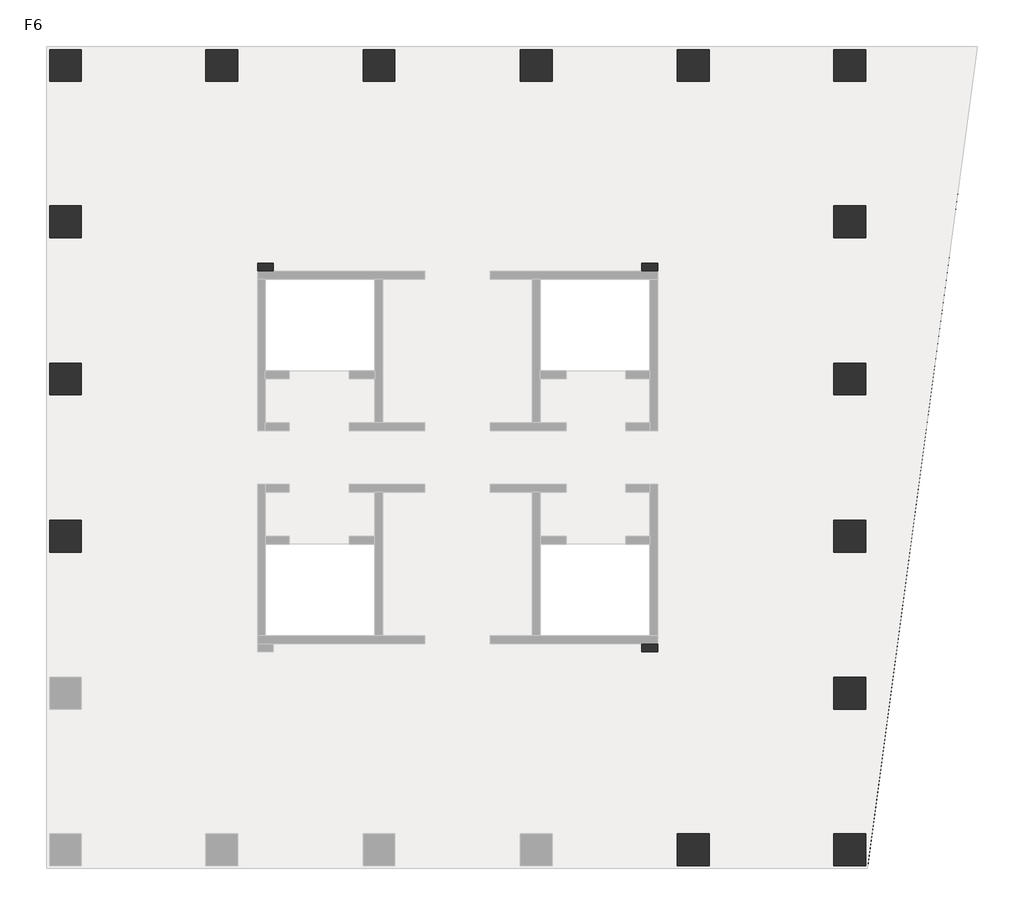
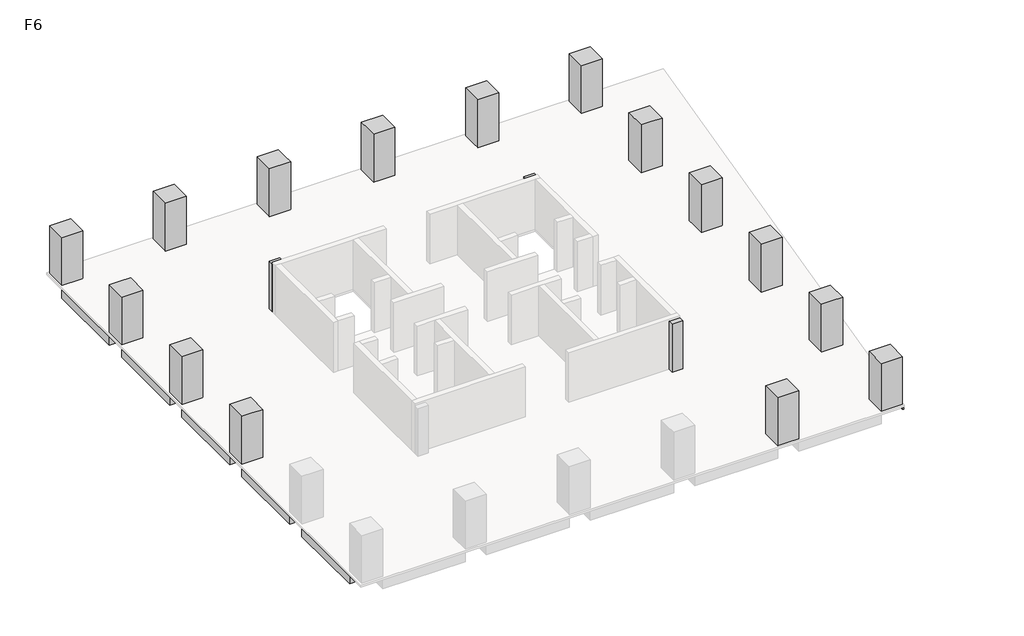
# One storey, part 2 of 2: 21 beams, 18 columns.
"""IFC4 building model written with IfcOpenShell, lengths in millimetres."""

import ifcopenshell
import ifcopenshell.guid

model = None  # the IFC model being written
_history = None  # IfcOwnerHistory: only IFC2X3 demands one
_inside = {}  # id of a spatial element -> (the spatial element, [elements in it])
_under = {}  # id of a project, library or spatial element -> (it, [spatial elements below it])
_declared = {}  # id of a project -> (the project, [libraries it declares])
_typed = {}  # id of a type object -> (the type object, [elements of that type])
_made_of = {}  # id of a material, layer set ... -> (it, [elements and type objects made of it])


def new_model(schema):
    """Start an empty IFC model of exactly this schema.

    Asked for "IFC4X3", IfcOpenShell would pick the latest addendum, in which some entities
    have other attributes; the version numbers below select the first issue.
    IFC2X3 requires an IfcOwnerHistory on every rooted entity: one is made here for all.
    """
    global model, _history
    if schema == "IFC4X3":
        model = ifcopenshell.file(schema_version=(4, 3, 0, 0))
    else:
        model = ifcopenshell.file(schema=schema)
    _inside.clear()
    _under.clear()
    _declared.clear()
    _typed.clear()
    _made_of.clear()
    _history = None
    if model.schema == "IFC2X3":
        org = make("IfcOrganization", Name="unknown")
        user = make(
            "IfcPersonAndOrganization",
            ThePerson=make("IfcPerson", FamilyName="unknown"),
            TheOrganization=org,
        )
        app = make(
            "IfcApplication",
            ApplicationDeveloper=org,
            Version="unknown",
            ApplicationFullName="unknown",
            ApplicationIdentifier="unknown",
        )
        _history = make(
            "IfcOwnerHistory",
            OwningUser=user,
            OwningApplication=app,
            ChangeAction="ADDED",
            CreationDate=0,
        )
    return model


def make(cls, **values):
    """One entity of the class cls with the attributes given. An attribute that is None is left unset."""
    return model.create_entity(
        cls, **{name: value for name, value in values.items() if value is not None}
    )


def rooted(cls, **values):
    """An entity with a GlobalId (a new one), such as an element, a storey or a relation."""
    return make(cls, GlobalId=ifcopenshell.guid.new(), OwnerHistory=_history, **values)


def si_unit(unit_type, name, prefix=None):
    """IfcSIUnit, for example si_unit("LENGTHUNIT", "METRE", prefix="MILLI")."""
    return make("IfcSIUnit", UnitType=unit_type, Prefix=prefix, Name=name)


def assignment(units):
    """IfcUnitAssignment: the units of a project."""
    return None if units is None else make("IfcUnitAssignment", Units=units)


def point(xyz):
    """IfcCartesianPoint."""
    return None if xyz is None else make("IfcCartesianPoint", Coordinates=xyz)


def direction(xyz):
    """IfcDirection."""
    return None if xyz is None else make("IfcDirection", DirectionRatios=xyz)


def frame(location, z_axis=None, x_axis=None):
    """IfcAxis2Placement3D, a coordinate frame: its origin and axes. An axis left out is left unset."""
    return make(
        "IfcAxis2Placement3D",
        Location=point(location),
        Axis=direction(z_axis),
        RefDirection=direction(x_axis),
    )


def origin():
    """The frame at (0, 0, 0) with its axes left unset."""
    return frame((0.0, 0.0, 0.0))


def place(relative_to, where):
    """IfcLocalPlacement: puts the frame where relative to a parent placement (None: the world)."""
    return make(
        "IfcLocalPlacement", PlacementRelTo=relative_to, RelativePlacement=where
    )


def context(
    kind, dimensions, precision=None, world=None, true_north=None, identifier=None
):
    """IfcGeometricRepresentationContext, for example the 3D "Model" context."""
    return make(
        "IfcGeometricRepresentationContext",
        ContextIdentifier=identifier,
        ContextType=kind,
        CoordinateSpaceDimension=dimensions,
        Precision=precision,
        WorldCoordinateSystem=world,
        TrueNorth=true_north,
    )


def project(units=None, contexts=None):
    """IfcProject with its units and contexts."""
    return rooted(
        "IfcProject",
        Name="project",
        RepresentationContexts=contexts,
        UnitsInContext=assignment(units),
    )


def spatial(cls, under=None, at=None, **own):
    """A site, building, storey or space (cls), placed at a placement, below another one or the project."""
    s = rooted(cls, ObjectPlacement=at, **own)
    if under is not None:
        _under.setdefault(under.id(), (under, []))[1].append(s)
    return s


def polyline(points):
    """IfcPolyline through the points."""
    return make("IfcPolyline", Points=[point(p) for p in points])


def outline(outer, holes=None, kind="AREA"):
    """IfcArbitraryClosedProfileDef: a profile drawn as a closed curve; with holes, ...WithVoids."""
    if holes is None:
        return make("IfcArbitraryClosedProfileDef", ProfileType=kind, OuterCurve=outer)
    return make(
        "IfcArbitraryProfileDefWithVoids",
        ProfileType=kind,
        OuterCurve=outer,
        InnerCurves=holes,
    )


def extrude(swept, where, along, depth):
    """IfcExtrudedAreaSolid: the profile swept, set in the frame where, extruded along a direction by depth."""
    return make(
        "IfcExtrudedAreaSolid",
        SweptArea=swept,
        Position=where,
        ExtrudedDirection=direction(along),
        Depth=depth,
    )


def faces_of(points, faces, orient=None, outer=None):
    """IfcFace entities. A face is a list of loops; a loop is a list of indices into points, from 0.

    orient and outer hold one flag for each loop. By default every Orientation is true, the
    first loop of a face is its IfcFaceOuterBound and the others are IfcFaceBound.
    """
    made = []
    for i, loops in enumerate(faces):
        bounds = []
        for j, loop in enumerate(loops):
            is_outer = j == 0 if outer is None else outer[i][j]
            bounds.append(
                make(
                    "IfcFaceOuterBound" if is_outer else "IfcFaceBound",
                    Bound=make("IfcPolyLoop", Polygon=[points[k] for k in loop]),
                    Orientation=True if orient is None else orient[i][j],
                )
            )
        made.append(make("IfcFace", Bounds=bounds))
    return made


def faceted_brep(points, faces, orient=None, outer=None, voids=None):
    """IfcFacetedBrep: a solid bounded by flat faces; with voids (closed shells), ...WithVoids."""
    shared = [point(p) for p in points]
    hull = make("IfcClosedShell", CfsFaces=faces_of(shared, faces, orient, outer))
    if voids is None:
        return make("IfcFacetedBrep", Outer=hull)
    return make(
        "IfcFacetedBrepWithVoids",
        Outer=hull,
        Voids=[
            make(cls, CfsFaces=faces_of(shared, fs, o, b)) for cls, fs, o, b in voids
        ],
    )


def shape(context_of_items, identifier, shape_type, items):
    """IfcShapeRepresentation: the items that make up one representation, for example the "Body"."""
    return make(
        "IfcShapeRepresentation",
        ContextOfItems=context_of_items,
        RepresentationIdentifier=identifier,
        RepresentationType=shape_type,
        Items=items,
    )


def made_of(thing, what):
    """Note that an element or type object is made of a material, layer set ...; save() writes the relation."""
    if what is not None:
        _made_of.setdefault(what.id(), (what, []))[1].append(thing)
    return thing


def element(
    cls,
    number,
    at=None,
    inside=None,
    cuts=None,
    type_object=None,
    material=None,
    context=None,
    identifier="Body",
    shape_type=None,
    held_by="IfcProductDefinitionShape",
    body=None,
    shapes=None,
    **own,
):
    """One element of the class cls, such as IfcWall. Its Tag is "e" and its number.

    at: its placement. inside: the storey or other place that contains it. cuts: it is an
    opening in that element (IfcRelVoidsElement). A single representation is given by context,
    identifier, shape_type and body (its items); several are given by shapes. held_by: the class
    of the entity that holds the representations. save() writes the other relations.
    """
    e = rooted(cls, Tag="e%d" % number, ObjectPlacement=at, **own)
    if body is not None:
        shapes = [shape(context, identifier, shape_type, body)]
    if shapes is not None:
        e.Representation = make(held_by, Representations=shapes)
    if inside is not None:
        _inside.setdefault(inside.id(), (inside, []))[1].append(e)
    if cuts is not None:
        rooted(
            "IfcRelVoidsElement", RelatingBuildingElement=cuts, RelatedOpeningElement=e
        )
    if type_object is not None:
        _typed.setdefault(type_object.id(), (type_object, []))[1].append(e)
    return made_of(e, material)


def aggregate(whole, parts):
    """IfcRelAggregates: a whole, such as a stair, and the parts it consists of."""
    return rooted("IfcRelAggregates", RelatingObject=whole, RelatedObjects=parts)


def save(model, path):
    """Write the relations noted so far, then the file.

    IfcRelAggregates (storeys below a building ...), IfcRelContainedInSpatialStructure (elements
    in a storey), IfcRelDefinesByType, IfcRelAssociatesMaterial and IfcRelDeclares: one each for
    every whole, place, type object, material and project.
    """
    for whole, parts in _under.values():
        aggregate(whole, parts)
    for where, things in _inside.values():
        rooted(
            "IfcRelContainedInSpatialStructure",
            RelatedElements=things,
            RelatingStructure=where,
        )
    for kind, things in _typed.values():
        rooted("IfcRelDefinesByType", RelatedObjects=things, RelatingType=kind)
    for what, things in _made_of.values():
        rooted("IfcRelAssociatesMaterial", RelatedObjects=things, RelatingMaterial=what)
    for by, libraries in _declared.values():
        rooted("IfcRelDeclares", RelatingContext=by, RelatedDefinitions=libraries)
    model.write(path)


model = new_model("IFC4")

# Units and contexts
model_context = context("Model", 3, world=origin())
ifc_project = project(units=[si_unit("LENGTHUNIT", "METRE", prefix="MILLI")], contexts=[model_context])

# Site, building, storey
site = spatial("IfcSite", under=ifc_project)
building = spatial("IfcBuilding", under=site)
storey = spatial("IfcBuildingStorey", under=building, Name="F6", Elevation=24000.0)

# Beams
placement = place(None, origin())
element("IfcBeam", 1, ObjectType="混凝土 - 矩形梁 : KL(5)-800x1000", at=placement, inside=storey, context=model_context, shape_type="SweptSolid", body=[
    extrude(outline(polyline([(25327.3257831, 27051.0498658), (25327.3257831, 26251.0498658), (19077.3257831, 26251.0498658), (19077.3257831, 27051.0498658), (25327.3257831, 27051.0498658)])), frame((0.0, 0.0, 23000.0), z_axis=(0.0, 0.0, 1.0), x_axis=(1.0, 0.0, 0.0)), (0.0, 0.0, 1.0), 840.0),
    extrude(outline(polyline([(-12472.6742169, 26251.0498658), (-12472.6742169, 27051.0498658), (-6222.6742169, 27051.0498658), (-6222.6742169, 26251.0498658), (-12472.6742169, 26251.0498658)])), frame((0.0, 0.0, 23000.0), z_axis=(0.0, 0.0, 1.0), x_axis=(1.0, 0.0, 0.0)), (0.0, 0.0, 1.0), 840.0),
    extrude(outline(polyline([(-4622.6742169, 26251.0498658), (-4622.6742169, 27051.0498658), (1677.3257831, 27051.0498658), (1677.3257831, 26251.0498658), (-4622.6742169, 26251.0498658)])), frame((0.0, 0.0, 23000.0), z_axis=(0.0, 0.0, 1.0), x_axis=(1.0, 0.0, 0.0)), (0.0, 0.0, 1.0), 840.0),
    extrude(outline(polyline([(3277.3257831, 26251.0498658), (3277.3257831, 27051.0498658), (9577.3257831, 27051.0498658), (9577.3257831, 26251.0498658), (3277.3257831, 26251.0498658)])), frame((0.0, 0.0, 23000.0), z_axis=(0.0, 0.0, 1.0), x_axis=(1.0, 0.0, 0.0)), (0.0, 0.0, 1.0), 840.0),
    extrude(outline(polyline([(11177.3257831, 26251.0498658), (11177.3257831, 27051.0498658), (17477.3257831, 27051.0498658), (17477.3257831, 26251.0498658), (11177.3257831, 26251.0498658)])), frame((0.0, 0.0, 23000.0), z_axis=(0.0, 0.0, 1.0), x_axis=(1.0, 0.0, 0.0)), (0.0, 0.0, 1.0), 840.0),
])
element("IfcBeam", 2, ObjectType="混凝土 - 矩形梁 : KL(5)-800x1000", at=placement, inside=storey, context=model_context, shape_type="Brep", body=[
    faceted_brep([(26927.3257831, 26251.0498658, 23000.0), (32422.0087099, 26251.0498658, 23000.0), (32422.0087099, 26251.0498658, 23840.0), (32018.4257091, 26251.0498658, 23840.0), (26927.3257831, 26251.0498658, 23840.0), (32422.0087099, 27051.0498658, 23000.0), (26927.3257831, 27051.0498658, 23000.0), (26927.3257831, 27051.0498658, 23840.0), (32422.0087099, 27051.0498658, 23840.0)], [[[0, 1, 2, 3, 4]], [[5, 1, 0, 6]], [[5, 6, 7, 8]], [[1, 5, 8, 2]], [[6, 0, 4, 7]], [[4, 3, 2, 8, 7]]]),
])
element("IfcBeam", 3, ObjectType="混凝土 - 矩形梁 : KL(5)-800x1000", at=placement, inside=storey, context=model_context, shape_type="Brep", body=[
    faceted_brep([(26127.3257831, -6098.9501342, 23000.0), (26127.3257831, -12348.9501342, 23000.0), (26127.3257831, -12348.9501342, 23840.0), (26127.3257831, -6098.9501342, 23840.0), (26927.3257831, -12348.9501342, 23000.0), (26927.3257831, -6098.9501342, 23000.0), (26927.3257831, -6098.9501342, 23840.0), (26927.3257831, -11700.7859463, 23840.0), (26927.3257831, -12348.9501342, 23840.0)], [[[0, 1, 2, 3]], [[4, 1, 0, 5]], [[4, 5, 6, 7, 8]], [[1, 4, 8, 2]], [[5, 0, 3, 6]], [[3, 2, 8, 7, 6]]]),
    faceted_brep([(26927.3257831, 25451.0498658, 23000.0), (26127.3257831, 25451.0498658, 23000.0), (26127.3257831, 25451.0498658, 23840.0), (26927.3257831, 25451.0498658, 23840.0), (26127.3257831, 19201.0498658, 23000.0), (26927.3257831, 19201.0498658, 23000.0), (26927.3257831, 19201.0498658, 23840.0), (26127.3257831, 19201.0498658, 23840.0)], [[[0, 1, 2, 3]], [[4, 5, 6, 7]], [[1, 4, 7, 2]], [[1, 0, 5, 4]], [[5, 0, 3, 6]], [[3, 2, 7, 6]]]),
    faceted_brep([(26927.3257831, 17601.0498658, 23000.0), (26127.3257831, 17601.0498658, 23000.0), (26127.3257831, 17601.0498658, 23840.0), (26927.3257831, 17601.0498658, 23840.0), (26127.3257831, 11301.0498658, 23000.0), (26927.3257831, 11301.0498658, 23000.0), (26927.3257831, 11301.0498658, 23840.0), (26127.3257831, 11301.0498658, 23840.0)], [[[0, 1, 2, 3]], [[4, 5, 6, 7]], [[1, 4, 7, 2]], [[1, 0, 5, 4]], [[5, 0, 3, 6]], [[3, 2, 7, 6]]]),
    faceted_brep([(26927.3257831, 9701.0498658, 23000.0), (26127.3257831, 9701.0498658, 23000.0), (26127.3257831, 9701.0498658, 23840.0), (26927.3257831, 9701.0498658, 23840.0), (26127.3257831, 3401.0498658, 23000.0), (26927.3257831, 3401.0498658, 23000.0), (26927.3257831, 3401.0498658, 23840.0), (26127.3257831, 3401.0498658, 23840.0)], [[[0, 1, 2, 3]], [[4, 5, 6, 7]], [[1, 4, 7, 2]], [[1, 0, 5, 4]], [[5, 0, 3, 6]], [[3, 2, 7, 6]]]),
    faceted_brep([(26927.3257831, 1801.0498658, 23000.0), (26127.3257831, 1801.0498658, 23000.0), (26127.3257831, 1801.0498658, 23840.0), (26927.3257831, 1801.0498658, 23840.0), (26127.3257831, -4498.9501342, 23000.0), (26927.3257831, -4498.9501342, 23000.0), (26927.3257831, -4498.9501342, 23840.0), (26127.3257831, -4498.9501342, 23840.0)], [[[0, 1, 2, 3]], [[4, 5, 6, 7]], [[1, 4, 7, 2]], [[1, 0, 5, 4]], [[5, 0, 3, 6]], [[3, 2, 7, 6]]]),
])
element("IfcBeam", 4, ObjectType="混凝土 - 矩形梁 : KL(5)-800x1000", at=placement, inside=storey, context=model_context, shape_type="SweptSolid", body=[
    extrude(outline(polyline([(-14072.6742169, 25451.0498658), (-13272.6742169, 25451.0498658), (-13272.6742169, 19201.0498658), (-14072.6742169, 19201.0498658), (-14072.6742169, 25451.0498658)])), frame((0.0, 0.0, 23000.0), z_axis=(0.0, 0.0, 1.0), x_axis=(1.0, 0.0, 0.0)), (0.0, 0.0, 1.0), 840.0),
    extrude(outline(polyline([(-13272.6742169, -12348.9501342), (-14072.6742169, -12348.9501342), (-14072.6742169, -6098.9501342), (-13272.6742169, -6098.9501342), (-13272.6742169, -12348.9501342)])), frame((0.0, 0.0, 23000.0), z_axis=(0.0, 0.0, 1.0), x_axis=(1.0, 0.0, 0.0)), (0.0, 0.0, 1.0), 840.0),
    extrude(outline(polyline([(-14072.6742169, 17601.0498658), (-13272.6742169, 17601.0498658), (-13272.6742169, 11301.0498658), (-14072.6742169, 11301.0498658), (-14072.6742169, 17601.0498658)])), frame((0.0, 0.0, 23000.0), z_axis=(0.0, 0.0, 1.0), x_axis=(1.0, 0.0, 0.0)), (0.0, 0.0, 1.0), 840.0),
    extrude(outline(polyline([(-14072.6742169, 9701.0498658), (-13272.6742169, 9701.0498658), (-13272.6742169, 3401.0498658), (-14072.6742169, 3401.0498658), (-14072.6742169, 9701.0498658)])), frame((0.0, 0.0, 23000.0), z_axis=(0.0, 0.0, 1.0), x_axis=(1.0, 0.0, 0.0)), (0.0, 0.0, 1.0), 840.0),
    extrude(outline(polyline([(-14072.6742169, 1801.0498658), (-13272.6742169, 1801.0498658), (-13272.6742169, -4498.9501342), (-14072.6742169, -4498.9501342), (-14072.6742169, 1801.0498658)])), frame((0.0, 0.0, 23000.0), z_axis=(0.0, 0.0, 1.0), x_axis=(1.0, 0.0, 0.0)), (0.0, 0.0, 1.0), 840.0),
])
element("IfcBeam", 5, ObjectType="混凝土 - 矩形梁 : L1-800x500", at=placement, inside=storey, context=model_context, shape_type="SweptSolid", body=[
    extrude(outline(polyline([(-12472.6742169, 2201.0498658), (-12472.6742169, 3001.0498658), (-3622.6742169, 3001.0498658), (-3622.6742169, 2201.0498658), (-12472.6742169, 2201.0498658)])), frame((0.0, 0.0, 23500.0), z_axis=(0.0, 0.0, 1.0), x_axis=(1.0, 0.0, 0.0)), (0.0, 0.0, 1.0), 340.0),
])
element("IfcBeam", 6, ObjectType="混凝土 - 矩形梁 : L1-800x500", at=placement, inside=storey, context=model_context, shape_type="SweptSolid", body=[
    extrude(outline(polyline([(-12472.6742169, 10101.0498658), (-12472.6742169, 10901.0498658), (-3622.6742169, 10901.0498658), (-3622.6742169, 10101.0498658), (-12472.6742169, 10101.0498658)])), frame((0.0, 0.0, 23500.0), z_axis=(0.0, 0.0, 1.0), x_axis=(1.0, 0.0, 0.0)), (0.0, 0.0, 1.0), 340.0),
])
element("IfcBeam", 7, ObjectType="混凝土 - 矩形梁 : L1-800x500", at=placement, inside=storey, context=model_context, shape_type="Brep", body=[
    faceted_brep([(-12472.6742169, 17789.85471, 23500.0), (-3622.6742169, 15588.3621727, 23500.0), (-3622.6742169, 15588.3621727, 23840.0), (-12472.6742169, 17789.85471, 23840.0), (-3173.6696907, 16301.0498658, 23500.0), (-3622.6742169, 16301.0498658, 23500.0), (-3622.6742169, 15901.0498658, 23500.0), (-12472.6742169, 18614.2350714, 23500.0), (-3746.9473979, 16443.6562607, 23500.0), (-12472.6742169, 18614.2350714, 23840.0), (-3746.9473979, 16443.6562607, 23840.0), (-3173.6696907, 16301.0498658, 23840.0), (-3622.6742169, 16301.0498658, 23840.0)], [[[0, 1, 2, 3]], [[4, 5, 6, 1, 0, 7, 8]], [[4, 8, 7, 9, 10, 11]], [[6, 5, 12, 2, 1]], [[5, 4, 11, 12]], [[7, 0, 3, 9]], [[3, 2, 12, 11, 10, 9]]]),
])
element("IfcBeam", 8, ObjectType="混凝土 - 矩形梁 : L1-800x500", at=placement, inside=storey, context=model_context, shape_type="SweptSolid", body=[
    extrude(outline(polyline([(-3173.6696907, 16301.0498658), (-3746.9473979, 16443.6562607), (-5661.5624638, 25451.0498658), (-4843.6893517, 25451.0498658), (-2898.7618154, 16301.0498658), (-3173.6696907, 16301.0498658)])), frame((0.0, 0.0, 23500.0), z_axis=(0.0, 0.0, 1.0), x_axis=(1.0, 0.0, 0.0)), (0.0, 0.0, 1.0), 340.0),
])
element("IfcBeam", 9, ObjectType="混凝土 - 矩形梁 : L1-800x500", at=placement, inside=storey, context=model_context, shape_type="SweptSolid", body=[
    extrude(outline(polyline([(2077.3257831, 25451.0498658), (2877.3257831, 25451.0498658), (2877.3257831, 15901.0498658), (2077.3257831, 15901.0498658), (2077.3257831, 25451.0498658)])), frame((0.0, 0.0, 23500.0), z_axis=(0.0, 0.0, 1.0), x_axis=(1.0, 0.0, 0.0)), (0.0, 0.0, 1.0), 340.0),
])
element("IfcBeam", 10, ObjectType="混凝土 - 矩形梁 : L1-800x500", at=placement, inside=storey, context=model_context, shape_type="SweptSolid", body=[
    extrude(outline(polyline([(9977.3257831, 25451.0498658), (10777.3257831, 25451.0498658), (10777.3257831, 15901.0498658), (9977.3257831, 15901.0498658), (9977.3257831, 25451.0498658)])), frame((0.0, 0.0, 23500.0), z_axis=(0.0, 0.0, 1.0), x_axis=(1.0, 0.0, 0.0)), (0.0, 0.0, 1.0), 340.0),
])
element("IfcBeam", 11, ObjectType="混凝土 - 矩形梁 : L1-800x500", at=placement, inside=storey, context=model_context, shape_type="Brep", body=[
    faceted_brep([(25327.3257831, -4687.7549784, 23500.0), (16477.3257831, -2486.2624411, 23500.0), (16477.3257831, -2486.2624411, 23840.0), (25327.3257831, -4687.7549784, 23840.0), (16028.3212569, -3198.9501342, 23500.0), (16477.3257831, -3198.9501342, 23500.0), (16477.3257831, -2798.9501342, 23500.0), (25327.3257831, -5512.1353397, 23500.0), (16601.5989641, -3341.556529, 23500.0), (25327.3257831, -5512.1353397, 23840.0), (16601.5989641, -3341.556529, 23840.0), (16028.3212569, -3198.9501342, 23840.0), (16477.3257831, -3198.9501342, 23840.0)], [[[0, 1, 2, 3]], [[4, 5, 6, 1, 0, 7, 8]], [[4, 8, 7, 9, 10, 11]], [[6, 5, 12, 2, 1]], [[5, 4, 11, 12]], [[7, 0, 3, 9]], [[3, 2, 12, 11, 10, 9]]]),
])
element("IfcBeam", 12, ObjectType="混凝土 - 矩形梁 : L1-800x500", at=placement, inside=storey, context=model_context, shape_type="SweptSolid", body=[
    extrude(outline(polyline([(16028.3212569, -3198.9501342), (16601.5989641, -3341.556529), (18516.21403, -12348.9501342), (17698.3409179, -12348.9501342), (15753.4133817, -3198.9501342), (16028.3212569, -3198.9501342)])), frame((0.0, 0.0, 23500.0), z_axis=(0.0, 0.0, 1.0), x_axis=(1.0, 0.0, 0.0)), (0.0, 0.0, 1.0), 340.0),
])
element("IfcBeam", 13, ObjectType="混凝土 - 矩形梁 : L1-800x500", at=placement, inside=storey, context=model_context, shape_type="SweptSolid", body=[
    extrude(outline(polyline([(25327.3257831, 3001.0498658), (25327.3257831, 2201.0498658), (16477.3257831, 2201.0498658), (16477.3257831, 3001.0498658), (25327.3257831, 3001.0498658)])), frame((0.0, 0.0, 23500.0), z_axis=(0.0, 0.0, 1.0), x_axis=(1.0, 0.0, 0.0)), (0.0, 0.0, 1.0), 340.0),
])
element("IfcBeam", 14, ObjectType="混凝土 - 矩形梁 : L1-800x500", at=placement, inside=storey, context=model_context, shape_type="SweptSolid", body=[
    extrude(outline(polyline([(25327.3257831, 10901.0498658), (25327.3257831, 10101.0498658), (16477.3257831, 10101.0498658), (16477.3257831, 10901.0498658), (25327.3257831, 10901.0498658)])), frame((0.0, 0.0, 23500.0), z_axis=(0.0, 0.0, 1.0), x_axis=(1.0, 0.0, 0.0)), (0.0, 0.0, 1.0), 340.0),
])
element("IfcBeam", 15, ObjectType="混凝土 - 矩形梁 : L1-800x500", at=placement, inside=storey, context=model_context, shape_type="Brep", body=[
    faceted_brep([(25327.3257831, 18610.6867312, 23500.0), (16590.8993897, 16393.3196262, 23500.0), (16227.3565337, 16301.0498658, 23500.0), (16227.3565337, 16301.0498658, 23840.0), (16590.8993897, 16393.3196262, 23840.0), (25327.3257831, 18610.6867312, 23840.0), (16477.3257831, 16301.0498658, 23500.0), (25327.3257831, 17785.3216299, 23500.0), (16477.3257831, 15539.1287365, 23500.0), (16477.3257831, 15901.0498658, 23500.0), (25327.3257831, 17785.3216299, 23840.0), (16477.3257831, 15539.1287365, 23840.0), (16477.3257831, 16301.0498658, 23840.0)], [[[0, 1, 2, 3, 4, 5]], [[6, 2, 1, 0, 7, 8, 9]], [[8, 7, 10, 11]], [[9, 8, 11, 12, 6]], [[2, 6, 12, 3]], [[7, 0, 5, 10]], [[5, 4, 3, 12, 11, 10]]]),
])
element("IfcBeam", 16, ObjectType="混凝土 - 矩形梁 : L1-800x500", at=placement, inside=storey, context=model_context, shape_type="SweptSolid", body=[
    extrude(outline(polyline([(16590.8993897, 16393.3196262), (16227.3565337, 16301.0498658), (15753.4133817, 16301.0498658), (17698.3409179, 25451.0498658), (18516.21403, 25451.0498658), (16590.8993897, 16393.3196262)])), frame((0.0, 0.0, 23500.0), z_axis=(0.0, 0.0, 1.0), x_axis=(1.0, 0.0, 0.0)), (0.0, 0.0, 1.0), 340.0),
])
element("IfcBeam", 17, ObjectType="混凝土 - 矩形梁 : L2-400x400", at=placement, inside=storey, context=model_context, shape_type="Brep", body=[
    faceted_brep([(32422.0087099, 26251.0498658, 23600.0), (27029.3257831, -13948.9501342, 23600.0), (26927.3257831, -13935.2672073, 23600.0), (26927.3257831, -11700.7859463, 23600.0), (27759.2793677, -5498.9501342, 23600.0), (27812.9379042, -5098.9501342, 23600.0), (28819.0354652, 2401.0498658, 23600.0), (28872.6940018, 2801.0498658, 23600.0), (29878.7915628, 10301.0498658, 23600.0), (29932.4500994, 10701.0498658, 23600.0), (30938.5476603, 18201.0498658, 23600.0), (30992.2061969, 18601.0498658, 23600.0), (32018.4257091, 26251.0498658, 23600.0), (32422.0087099, 26251.0498658, 23840.0), (27029.3257831, -13948.9501342, 23840.0), (32018.4257091, 26251.0498658, 23840.0), (26927.3257831, -13935.2672073, 23840.0), (26927.3257831, -12348.9501342, 23840.0), (26927.3257831, -11700.7859463, 23840.0), (27759.2793677, -5498.9501342, 23840.0), (27812.9379042, -5098.9501342, 23840.0), (28819.0354652, 2401.0498658, 23840.0), (28872.6940018, 2801.0498658, 23840.0), (29878.7915628, 10301.0498658, 23840.0), (29932.4500994, 10701.0498658, 23840.0), (30938.5476603, 18201.0498658, 23840.0), (30992.2061969, 18601.0498658, 23840.0)], [[[0, 1, 2, 3, 4, 5, 6, 7, 8, 9, 10, 11, 12]], [[1, 0, 13, 14]], [[0, 12, 15, 13]], [[3, 2, 16, 17, 18]], [[12, 11, 10, 9, 8, 7, 6, 5, 4, 3, 18, 19, 20, 21, 22, 23, 24, 25, 26, 15]], [[2, 1, 14, 16]], [[14, 13, 15, 26, 25, 24, 23, 22, 21, 20, 19, 18, 17, 16]]]),
])
element("IfcBeam", 18, ObjectType="混凝土 - 矩形梁 : L2-400x400", at=placement, inside=storey, context=model_context, shape_type="SweptSolid", body=[
    extrude(outline(polyline([(30938.5476603, 18201.0498658), (26927.3257831, 18201.0498658), (26927.3257831, 18601.0498658), (30992.2061969, 18601.0498658), (30938.5476603, 18201.0498658)])), frame((0.0, 0.0, 23600.0), z_axis=(0.0, 0.0, 1.0), x_axis=(1.0, 0.0, 0.0)), (0.0, 0.0, 1.0), 240.0),
])
element("IfcBeam", 19, ObjectType="混凝土 - 矩形梁 : L2-400x400", at=placement, inside=storey, context=model_context, shape_type="SweptSolid", body=[
    extrude(outline(polyline([(29878.7915628, 10301.0498658), (26927.3257831, 10301.0498658), (26927.3257831, 10701.0498658), (29932.4500994, 10701.0498658), (29878.7915628, 10301.0498658)])), frame((0.0, 0.0, 23600.0), z_axis=(0.0, 0.0, 1.0), x_axis=(1.0, 0.0, 0.0)), (0.0, 0.0, 1.0), 240.0),
])
element("IfcBeam", 20, ObjectType="混凝土 - 矩形梁 : L2-400x400", at=placement, inside=storey, context=model_context, shape_type="SweptSolid", body=[
    extrude(outline(polyline([(28819.0354652, 2401.0498658), (26927.3257831, 2401.0498658), (26927.3257831, 2801.0498658), (28872.6940018, 2801.0498658), (28819.0354652, 2401.0498658)])), frame((0.0, 0.0, 23600.0), z_axis=(0.0, 0.0, 1.0), x_axis=(1.0, 0.0, 0.0)), (0.0, 0.0, 1.0), 240.0),
])
element("IfcBeam", 21, ObjectType="混凝土 - 矩形梁 : L2-400x400", at=placement, inside=storey, context=model_context, shape_type="SweptSolid", body=[
    extrude(outline(polyline([(27759.2793677, -5498.9501342), (26927.3257831, -5498.9501342), (26927.3257831, -5098.9501342), (27812.9379042, -5098.9501342), (27759.2793677, -5498.9501342)])), frame((0.0, 0.0, 23600.0), z_axis=(0.0, 0.0, 1.0), x_axis=(1.0, 0.0, 0.0)), (0.0, 0.0, 1.0), 240.0),
])

# Columns
element("IfcColumn", 22, ObjectType="混凝土 - 矩形 - 柱 : Z1-1600x1600", at=placement, inside=storey, context=model_context, shape_type="SweptSolid", body=[
    extrude(outline(polyline([(-12472.6742169, 27051.0498658), (-12472.6742169, 25451.0498658), (-14072.6742169, 25451.0498658), (-14072.6742169, 27051.0498658), (-12472.6742169, 27051.0498658)])), frame((0.0, 0.0, 24000.0), z_axis=(0.0, 0.0, 1.0), x_axis=(1.0, 0.0, 0.0)), (0.0, 0.0, 1.0), 3840.0),
])
element("IfcColumn", 23, ObjectType="混凝土 - 矩形 - 柱 : Z1-1600x1600", at=placement, inside=storey, context=model_context, shape_type="Brep", body=[
    faceted_brep([(-4622.6742169, 27051.0498658, 24000.0), (-4622.6742169, 25451.0498658, 24000.0), (-6222.6742169, 25451.0498658, 24000.0), (-6222.6742169, 27051.0498658, 24000.0), (-4622.6742169, 27051.0498658, 27000.0), (-4622.6742169, 27051.0498658, 27840.0), (-4622.6742169, 26251.0498658, 27840.0), (-4622.6742169, 25451.0498658, 27840.0), (-6222.6742169, 25451.0498658, 27840.0), (-6222.6742169, 26251.0498658, 27840.0), (-6222.6742169, 27051.0498658, 27840.0), (-6222.6742169, 27051.0498658, 27000.0)], [[[0, 1, 2, 3]], [[1, 0, 4, 5, 6, 7]], [[2, 1, 7, 8]], [[3, 2, 8, 9, 10, 11]], [[0, 3, 11, 10, 5, 4]], [[7, 6, 5, 10, 9, 8]]]),
])
element("IfcColumn", 24, ObjectType="混凝土 - 矩形 - 柱 : Z1-1600x1600", at=placement, inside=storey, context=model_context, shape_type="Brep", body=[
    faceted_brep([(-12472.6742169, 19201.0498658, 24000.0), (-12472.6742169, 17601.0498658, 24000.0), (-14072.6742169, 17601.0498658, 24000.0), (-14072.6742169, 19201.0498658, 24000.0), (-12472.6742169, 19201.0498658, 27840.0), (-12472.6742169, 17601.0498658, 27840.0), (-13272.6742169, 17601.0498658, 27840.0), (-14072.6742169, 17601.0498658, 27840.0), (-14072.6742169, 17601.0498658, 27000.0), (-14072.6742169, 19201.0498658, 27840.0), (-14072.6742169, 19201.0498658, 27000.0), (-13272.6742169, 19201.0498658, 27840.0)], [[[0, 1, 2, 3]], [[1, 0, 4, 5]], [[2, 1, 5, 6, 7, 8]], [[3, 2, 8, 7, 9, 10]], [[0, 3, 10, 9, 11, 4]], [[5, 4, 11, 9, 7, 6]]]),
])
element("IfcColumn", 25, ObjectType="混凝土 - 矩形 - 柱 : Z1-1600x1600", at=placement, inside=storey, context=model_context, shape_type="Brep", body=[
    faceted_brep([(-12472.6742169, 11301.0498658, 24000.0), (-12472.6742169, 9701.0498658, 24000.0), (-14072.6742169, 9701.0498658, 24000.0), (-14072.6742169, 11301.0498658, 24000.0), (-12472.6742169, 11301.0498658, 27840.0), (-12472.6742169, 9701.0498658, 27840.0), (-13272.6742169, 9701.0498658, 27840.0), (-14072.6742169, 9701.0498658, 27840.0), (-14072.6742169, 9701.0498658, 27000.0), (-14072.6742169, 11301.0498658, 27840.0), (-14072.6742169, 11301.0498658, 27000.0), (-13272.6742169, 11301.0498658, 27840.0)], [[[0, 1, 2, 3]], [[1, 0, 4, 5]], [[2, 1, 5, 6, 7, 8]], [[3, 2, 8, 7, 9, 10]], [[0, 3, 10, 9, 11, 4]], [[5, 4, 11, 9, 7, 6]]]),
])
element("IfcColumn", 26, ObjectType="混凝土 - 矩形 - 柱 : Z1-1600x1600", at=placement, inside=storey, context=model_context, shape_type="Brep", body=[
    faceted_brep([(-12472.6742169, 3401.0498658, 24000.0), (-12472.6742169, 1801.0498658, 24000.0), (-14072.6742169, 1801.0498658, 24000.0), (-14072.6742169, 3401.0498658, 24000.0), (-12472.6742169, 3401.0498658, 27840.0), (-12472.6742169, 1801.0498658, 27840.0), (-13272.6742169, 1801.0498658, 27840.0), (-14072.6742169, 1801.0498658, 27840.0), (-14072.6742169, 1801.0498658, 27000.0), (-14072.6742169, 3401.0498658, 27840.0), (-14072.6742169, 3401.0498658, 27000.0), (-13272.6742169, 3401.0498658, 27840.0)], [[[0, 1, 2, 3]], [[1, 0, 4, 5]], [[2, 1, 5, 6, 7, 8]], [[3, 2, 8, 7, 9, 10]], [[0, 3, 10, 9, 11, 4]], [[5, 4, 11, 9, 7, 6]]]),
])
element("IfcColumn", 27, ObjectType="混凝土 - 矩形 - 柱 : Z1-1600x1600", at=placement, inside=storey, context=model_context, shape_type="SweptSolid", body=[
    extrude(outline(polyline([(25327.3257831, 27051.0498658), (26927.3257831, 27051.0498658), (26927.3257831, 25451.0498658), (25327.3257831, 25451.0498658), (25327.3257831, 27051.0498658)])), frame((0.0, 0.0, 24000.0), z_axis=(0.0, 0.0, 1.0), x_axis=(1.0, 0.0, 0.0)), (0.0, 0.0, 1.0), 3840.0),
])
element("IfcColumn", 28, ObjectType="混凝土 - 矩形 - 柱 : Z1-1600x1600", at=placement, inside=storey, context=model_context, shape_type="Brep", body=[
    faceted_brep([(25327.3257831, 19201.0498658, 24000.0), (26927.3257831, 19201.0498658, 24000.0), (26927.3257831, 17601.0498658, 24000.0), (25327.3257831, 17601.0498658, 24000.0), (25327.3257831, 17601.0498658, 27840.0), (25327.3257831, 19201.0498658, 27840.0), (26927.3257831, 17601.0498658, 27000.0), (26927.3257831, 17601.0498658, 27840.0), (26127.3257831, 17601.0498658, 27840.0), (26927.3257831, 19201.0498658, 27000.0), (26927.3257831, 19201.0498658, 27840.0), (26127.3257831, 19201.0498658, 27840.0)], [[[0, 1, 2, 3]], [[0, 3, 4, 5]], [[3, 2, 6, 7, 8, 4]], [[2, 1, 9, 10, 7, 6]], [[1, 0, 5, 11, 10, 9]], [[5, 4, 8, 7, 10, 11]]]),
])
element("IfcColumn", 29, ObjectType="混凝土 - 矩形 - 柱 : Z1-1600x1600", at=placement, inside=storey, context=model_context, shape_type="Brep", body=[
    faceted_brep([(25327.3257831, 11301.0498658, 24000.0), (26927.3257831, 11301.0498658, 24000.0), (26927.3257831, 9701.0498658, 24000.0), (25327.3257831, 9701.0498658, 24000.0), (25327.3257831, 9701.0498658, 27840.0), (25327.3257831, 11301.0498658, 27840.0), (26927.3257831, 9701.0498658, 27000.0), (26927.3257831, 9701.0498658, 27840.0), (26127.3257831, 9701.0498658, 27840.0), (26927.3257831, 11301.0498658, 27000.0), (26927.3257831, 11301.0498658, 27840.0), (26127.3257831, 11301.0498658, 27840.0)], [[[0, 1, 2, 3]], [[0, 3, 4, 5]], [[3, 2, 6, 7, 8, 4]], [[2, 1, 9, 10, 7, 6]], [[1, 0, 5, 11, 10, 9]], [[5, 4, 8, 7, 10, 11]]]),
])
element("IfcColumn", 30, ObjectType="混凝土 - 矩形 - 柱 : Z1-1600x1600", at=placement, inside=storey, context=model_context, shape_type="Brep", body=[
    faceted_brep([(25327.3257831, 3401.0498658, 24000.0), (26927.3257831, 3401.0498658, 24000.0), (26927.3257831, 1801.0498658, 24000.0), (25327.3257831, 1801.0498658, 24000.0), (25327.3257831, 1801.0498658, 27840.0), (25327.3257831, 3401.0498658, 27840.0), (26927.3257831, 1801.0498658, 27000.0), (26927.3257831, 1801.0498658, 27840.0), (26127.3257831, 1801.0498658, 27840.0), (26927.3257831, 3401.0498658, 27000.0), (26927.3257831, 3401.0498658, 27840.0), (26127.3257831, 3401.0498658, 27840.0)], [[[0, 1, 2, 3]], [[0, 3, 4, 5]], [[3, 2, 6, 7, 8, 4]], [[2, 1, 9, 10, 7, 6]], [[1, 0, 5, 11, 10, 9]], [[5, 4, 8, 7, 10, 11]]]),
])
element("IfcColumn", 31, ObjectType="混凝土 - 矩形 - 柱 : Z1-1600x1600", at=placement, inside=storey, context=model_context, shape_type="Brep", body=[
    faceted_brep([(25327.3257831, -4498.9501342, 24000.0), (26927.3257831, -4498.9501342, 24000.0), (26927.3257831, -6098.9501342, 24000.0), (25327.3257831, -6098.9501342, 24000.0), (25327.3257831, -6098.9501342, 27840.0), (25327.3257831, -4498.9501342, 27840.0), (26927.3257831, -6098.9501342, 27000.0), (26927.3257831, -6098.9501342, 27840.0), (26127.3257831, -6098.9501342, 27840.0), (26927.3257831, -4498.9501342, 27000.0), (26927.3257831, -4498.9501342, 27840.0), (26127.3257831, -4498.9501342, 27840.0)], [[[0, 1, 2, 3]], [[0, 3, 4, 5]], [[3, 2, 6, 7, 8, 4]], [[2, 1, 9, 10, 7, 6]], [[1, 0, 5, 11, 10, 9]], [[5, 4, 8, 7, 10, 11]]]),
])
element("IfcColumn", 32, ObjectType="混凝土 - 矩形 - 柱 : Z1-1600x1600", at=placement, inside=storey, context=model_context, shape_type="SweptSolid", body=[
    extrude(outline(polyline([(25327.3257831, -12348.9501342), (26927.3257831, -12348.9501342), (26927.3257831, -13948.9501342), (25327.3257831, -13948.9501342), (25327.3257831, -12348.9501342)])), frame((0.0, 0.0, 24000.0), z_axis=(0.0, 0.0, 1.0), x_axis=(1.0, 0.0, 0.0)), (0.0, 0.0, 1.0), 3840.0),
])
element("IfcColumn", 33, ObjectType="混凝土 - 矩形 - 柱 : Z1-1600x1600", at=placement, inside=storey, context=model_context, shape_type="Brep", body=[
    faceted_brep([(3277.3257831, 27051.0498658, 24000.0), (3277.3257831, 25451.0498658, 24000.0), (1677.3257831, 25451.0498658, 24000.0), (1677.3257831, 27051.0498658, 24000.0), (3277.3257831, 27051.0498658, 27000.0), (3277.3257831, 27051.0498658, 27840.0), (3277.3257831, 26251.0498658, 27840.0), (3277.3257831, 25451.0498658, 27840.0), (1677.3257831, 25451.0498658, 27840.0), (1677.3257831, 26251.0498658, 27840.0), (1677.3257831, 27051.0498658, 27840.0), (1677.3257831, 27051.0498658, 27000.0)], [[[0, 1, 2, 3]], [[1, 0, 4, 5, 6, 7]], [[2, 1, 7, 8]], [[3, 2, 8, 9, 10, 11]], [[0, 3, 11, 10, 5, 4]], [[7, 6, 5, 10, 9, 8]]]),
])
element("IfcColumn", 34, ObjectType="混凝土 - 矩形 - 柱 : Z1-1600x1600", at=placement, inside=storey, context=model_context, shape_type="Brep", body=[
    faceted_brep([(11177.3257831, 27051.0498658, 24000.0), (11177.3257831, 25451.0498658, 24000.0), (9577.3257831, 25451.0498658, 24000.0), (9577.3257831, 27051.0498658, 24000.0), (11177.3257831, 27051.0498658, 27000.0), (11177.3257831, 27051.0498658, 27840.0), (11177.3257831, 26251.0498658, 27840.0), (11177.3257831, 25451.0498658, 27840.0), (9577.3257831, 25451.0498658, 27840.0), (9577.3257831, 26251.0498658, 27840.0), (9577.3257831, 27051.0498658, 27840.0), (9577.3257831, 27051.0498658, 27000.0)], [[[0, 1, 2, 3]], [[1, 0, 4, 5, 6, 7]], [[2, 1, 7, 8]], [[3, 2, 8, 9, 10, 11]], [[0, 3, 11, 10, 5, 4]], [[7, 6, 5, 10, 9, 8]]]),
])
element("IfcColumn", 35, ObjectType="混凝土 - 矩形 - 柱 : Z1-1600x1600", at=placement, inside=storey, context=model_context, shape_type="Brep", body=[
    faceted_brep([(19077.3257831, 27051.0498658, 24000.0), (19077.3257831, 25451.0498658, 24000.0), (17477.3257831, 25451.0498658, 24000.0), (17477.3257831, 27051.0498658, 24000.0), (19077.3257831, 27051.0498658, 27000.0), (19077.3257831, 27051.0498658, 27840.0), (19077.3257831, 26251.0498658, 27840.0), (19077.3257831, 25451.0498658, 27840.0), (17477.3257831, 25451.0498658, 27840.0), (17477.3257831, 26251.0498658, 27840.0), (17477.3257831, 27051.0498658, 27840.0), (17477.3257831, 27051.0498658, 27000.0)], [[[0, 1, 2, 3]], [[1, 0, 4, 5, 6, 7]], [[2, 1, 7, 8]], [[3, 2, 8, 9, 10, 11]], [[0, 3, 11, 10, 5, 4]], [[7, 6, 5, 10, 9, 8]]]),
])
element("IfcColumn", 36, ObjectType="混凝土 - 矩形 - 柱 : Z1-1600x1600", at=placement, inside=storey, context=model_context, shape_type="Brep", body=[
    faceted_brep([(19077.3257831, -12348.9501342, 24000.0), (19077.3257831, -13948.9501342, 24000.0), (17477.3257831, -13948.9501342, 24000.0), (17477.3257831, -12348.9501342, 24000.0), (19077.3257831, -12348.9501342, 27840.0), (19077.3257831, -13148.9501342, 27840.0), (19077.3257831, -13948.9501342, 27840.0), (19077.3257831, -13948.9501342, 27000.0), (17477.3257831, -13948.9501342, 27840.0), (17477.3257831, -13948.9501342, 27000.0), (17477.3257831, -13148.9501342, 27840.0), (17477.3257831, -12348.9501342, 27840.0)], [[[0, 1, 2, 3]], [[1, 0, 4, 5, 6, 7]], [[2, 1, 7, 6, 8, 9]], [[3, 2, 9, 8, 10, 11]], [[0, 3, 11, 4]], [[6, 5, 4, 11, 10, 8]]]),
])
element("IfcColumn", 37, ObjectType="混凝土 - 矩形 - 柱 : Z2-800x800", at=placement, inside=storey, context=model_context, shape_type="SweptSolid", body=[
    extrude(outline(polyline([(-3622.6742169, 16301.0498658), (-2822.6742169, 16301.0498658), (-2822.6742169, 15901.0498658), (-3622.6742169, 15901.0498658), (-3622.6742169, 16301.0498658)])), frame((0.0, 0.0, 24000.0), z_axis=(0.0, 0.0, 1.0), x_axis=(1.0, 0.0, 0.0)), (0.0, 0.0, 1.0), 3840.0),
])
element("IfcColumn", 38, ObjectType="混凝土 - 矩形 - 柱 : Z2-800x800", at=placement, inside=storey, context=model_context, shape_type="SweptSolid", body=[
    extrude(outline(polyline([(16477.3257831, -3198.9501342), (15677.3257831, -3198.9501342), (15677.3257831, -2798.9501342), (16477.3257831, -2798.9501342), (16477.3257831, -3198.9501342)])), frame((0.0, 0.0, 24000.0), z_axis=(0.0, 0.0, 1.0), x_axis=(1.0, 0.0, 0.0)), (0.0, 0.0, 1.0), 3840.0),
])
element("IfcColumn", 39, ObjectType="混凝土 - 矩形 - 柱 : Z2-800x800", at=placement, inside=storey, context=model_context, shape_type="SweptSolid", body=[
    extrude(outline(polyline([(15677.3257831, 16301.0498658), (16477.3257831, 16301.0498658), (16477.3257831, 15901.0498658), (15677.3257831, 15901.0498658), (15677.3257831, 16301.0498658)])), frame((0.0, 0.0, 24000.0), z_axis=(0.0, 0.0, 1.0), x_axis=(1.0, 0.0, 0.0)), (0.0, 0.0, 1.0), 3840.0),
])

save(model, "model.ifc")
